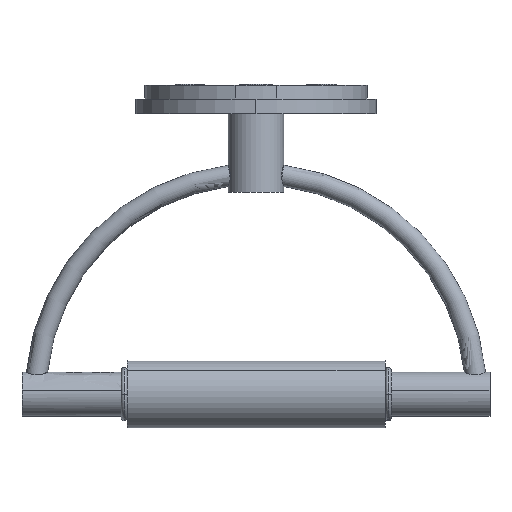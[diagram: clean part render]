
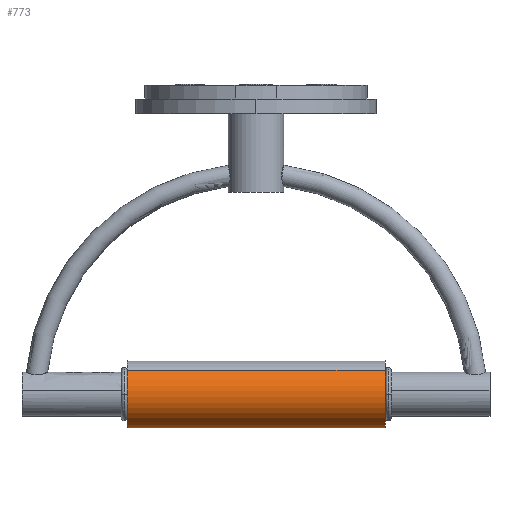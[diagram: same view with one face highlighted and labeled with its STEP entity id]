
A CAD part, front view. The second image highlights one B-rep face of the part: STEP entity #773.
In plain terms, the highlighted cylindrical face has radius 16 mm (diameter 32 mm), a partial arc.
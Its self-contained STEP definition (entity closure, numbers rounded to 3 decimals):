
#732=CARTESIAN_POINT('',(0.115,-16.662,-147.288));
#733=DIRECTION('',(1.0,0.,0.));
#734=DIRECTION('',(0.,-0.707,0.707));
#735=AXIS2_PLACEMENT_3D('',#732,#733,#734);
#736=CYLINDRICAL_SURFACE('',#735,16.0);
#737=CARTESIAN_POINT('',(-61.385,-27.976,-135.974));
#738=VERTEX_POINT('',#737);
#739=CARTESIAN_POINT('',(61.615,-27.976,-135.974));
#740=VERTEX_POINT('',#739);
#741=CARTESIAN_POINT('',(-61.385,-27.976,-135.974));
#742=DIRECTION('',(1.0,0.0,0.0));
#743=VECTOR('',#742,123.0);
#744=LINE('',#741,#743);
#745=EDGE_CURVE('',#738,#740,#744,.T.);
#746=ORIENTED_EDGE('',*,*,#745,.F.);
#747=CARTESIAN_POINT('',(-61.385,-5.348,-158.602));
#748=VERTEX_POINT('',#747);
#749=CARTESIAN_POINT('',(-61.385,-16.662,-147.288));
#750=DIRECTION('',(1.,0.,0.));
#751=DIRECTION('',(0.,-0.707,0.707));
#752=AXIS2_PLACEMENT_3D('',#749,#750,#751);
#753=CIRCLE('',#752,16.0);
#754=EDGE_CURVE('',#738,#748,#753,.T.);
#755=ORIENTED_EDGE('',*,*,#754,.T.);
#756=CARTESIAN_POINT('',(61.615,-5.348,-158.602));
#757=VERTEX_POINT('',#756);
#758=CARTESIAN_POINT('',(61.615,-5.348,-158.602));
#759=DIRECTION('',(-1.0,0.0,0.0));
#760=VECTOR('',#759,123.);
#761=LINE('',#758,#760);
#762=EDGE_CURVE('',#757,#748,#761,.T.);
#763=ORIENTED_EDGE('',*,*,#762,.F.);
#764=CARTESIAN_POINT('',(61.615,-16.662,-147.288));
#765=DIRECTION('',(-1.,0.,0.));
#766=DIRECTION('',(0.,-0.707,0.707));
#767=AXIS2_PLACEMENT_3D('',#764,#765,#766);
#768=CIRCLE('',#767,16.0);
#769=EDGE_CURVE('',#757,#740,#768,.T.);
#770=ORIENTED_EDGE('',*,*,#769,.T.);
#771=EDGE_LOOP('',(#746,#755,#763,#770));
#772=FACE_OUTER_BOUND('',#771,.T.);
#773=ADVANCED_FACE('',(#772),#736,.T.);
